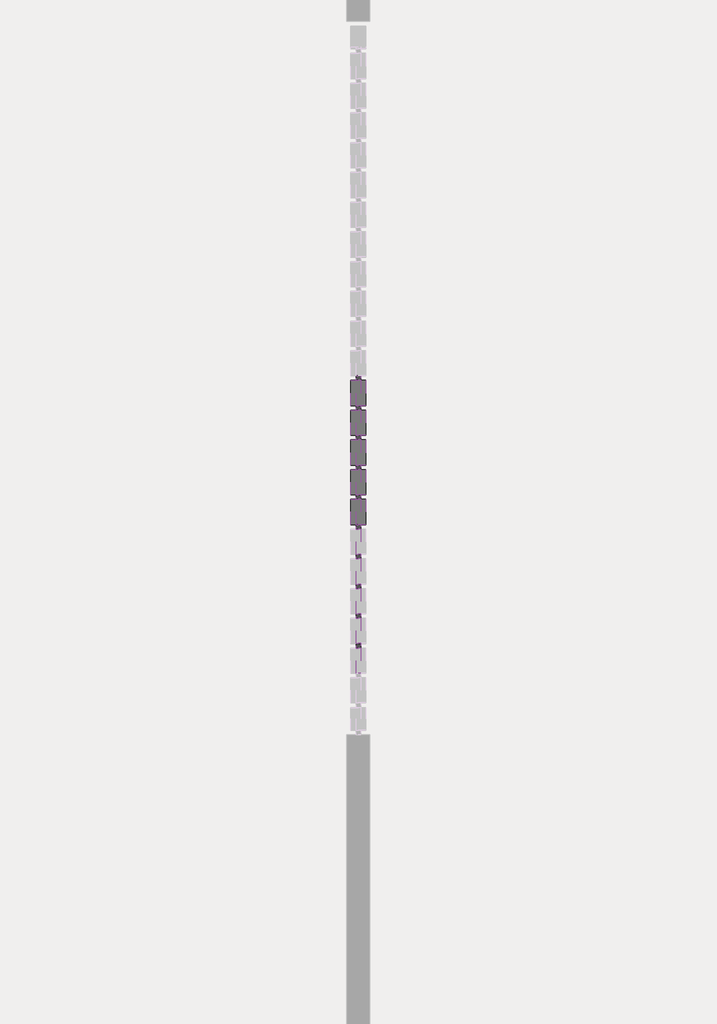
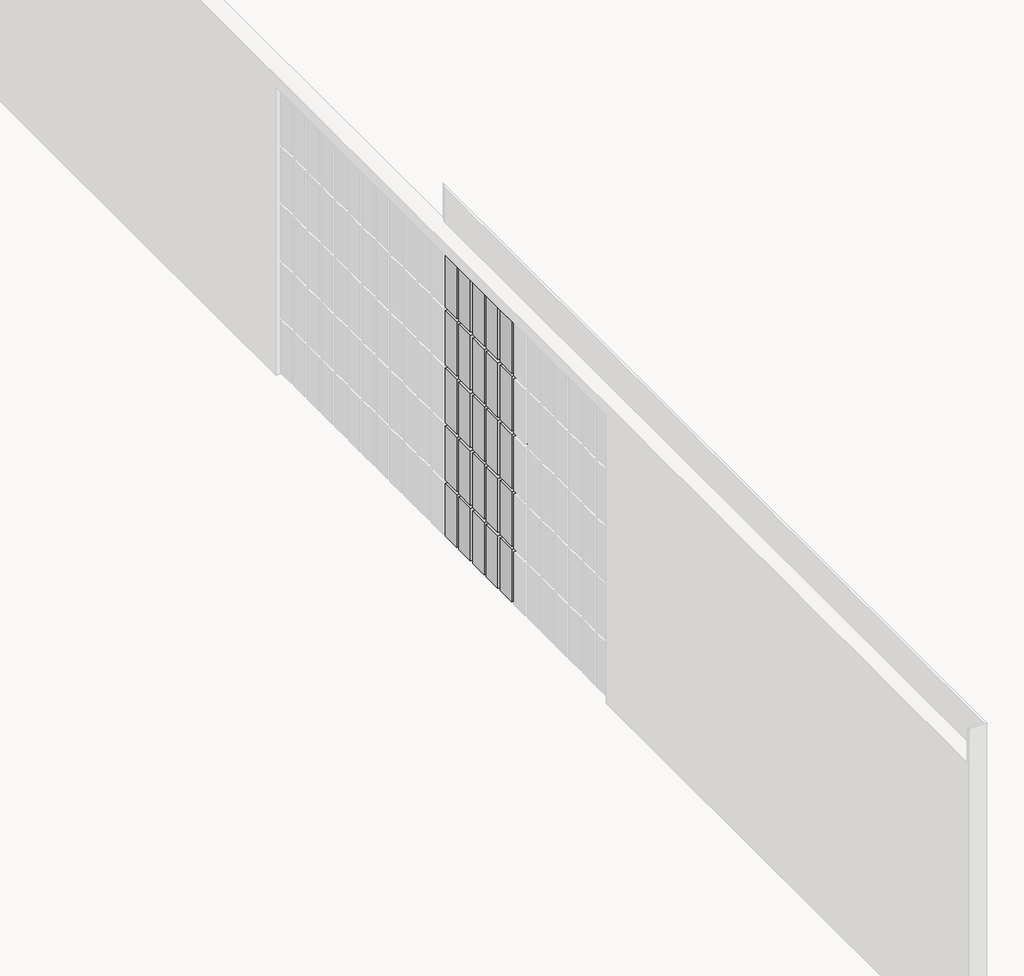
# One storey, part 4 of 9: 105 members, 25 plates.
"""IFC4 building model written with IfcOpenShell, lengths in millimetres."""

from ifc_helpers import new_model, si_unit, origin, place, context, project, spatial, transform, mapped, element, save
from components import montante_retangular_30mm_quadrado_d4df406a, montante_retangular_30mm_quadrado_921f6540, montante_retangular_30mm_quadrado_d9064eb3, painel_do_sistema_vazio_vazio_aac5a565, painel_do_sistema_vazio_vazio_54d91eb3

model = new_model("IFC4")

# Units and contexts
model_context = context("Model", 3, world=origin())
ifc_project = project(units=[si_unit("LENGTHUNIT", "METRE", prefix="MILLI")], contexts=[model_context])

# Site, building, storey
site = spatial("IfcSite", under=ifc_project)
building = spatial("IfcBuilding", under=site)
storey = spatial("IfcBuildingStorey", under=building, Name="Garagem 1", Elevation=47850.0)

# Members
placement = place(None, origin())
montante_retangular_30mm_quadrado_shape = montante_retangular_30mm_quadrado_d4df406a(model_context)
element("IfcMember", 1, ObjectType="Montante retangular : 30mm Quadrado", at=placement, inside=storey, context=model_context, shape_type="MappedRepresentation", body=[
    mapped(montante_retangular_30mm_quadrado_shape, transform((-44730.8696428, 10109.8710619, 50350.0), x_axis=(0.0, 0.0, 1.0), y_axis=(1.0, 0.0, 0.0), z_axis=(0.0, 1.0, 0.0))),
])
element("IfcMember", 2, ObjectType="Montante retangular : 30mm Quadrado", at=placement, inside=storey, context=model_context, shape_type="MappedRepresentation", body=[
    mapped(montante_retangular_30mm_quadrado_shape, transform((-44730.8696428, 10305.3487477, 50350.0), x_axis=(0.0, 0.0, 1.0), y_axis=(1.0, 0.0, 0.0), z_axis=(0.0, 1.0, 0.0))),
])
element("IfcMember", 3, ObjectType="Montante retangular : 30mm Quadrado", at=placement, inside=storey, context=model_context, shape_type="MappedRepresentation", body=[
    mapped(montante_retangular_30mm_quadrado_shape, transform((-44730.8696428, 10500.8264336, 50350.0), x_axis=(0.0, 0.0, 1.0), y_axis=(1.0, 0.0, 0.0), z_axis=(0.0, 1.0, 0.0))),
])
element("IfcMember", 4, ObjectType="Montante retangular : 30mm Quadrado", at=placement, inside=storey, context=model_context, shape_type="MappedRepresentation", body=[
    mapped(montante_retangular_30mm_quadrado_shape, transform((-44730.8696428, 10696.3041194, 50350.0), x_axis=(0.0, 0.0, 1.0), y_axis=(1.0, 0.0, 0.0), z_axis=(0.0, 1.0, 0.0))),
])
element("IfcMember", 5, ObjectType="Montante retangular : 30mm Quadrado", at=placement, inside=storey, context=model_context, shape_type="MappedRepresentation", body=[
    mapped(montante_retangular_30mm_quadrado_shape, transform((-44730.8696428, 10891.7818052, 50350.0), x_axis=(0.0, 0.0, 1.0), y_axis=(1.0, 0.0, 0.0), z_axis=(0.0, 1.0, 0.0))),
])
element("IfcMember", 6, ObjectType="Montante retangular : 30mm Quadrado", at=placement, inside=storey, context=model_context, shape_type="MappedRepresentation", body=[
    mapped(montante_retangular_30mm_quadrado_shape, transform((-44730.8696428, 9162.4826328, 47850.0), x_axis=(0.0, 0.0, -1.0), y_axis=(1.0, 0.0, 0.0), z_axis=(0.0, -1.0, 0.0))),
])
element("IfcMember", 7, ObjectType="Montante retangular : 30mm Quadrado", at=placement, inside=storey, context=model_context, shape_type="MappedRepresentation", body=[
    mapped(montante_retangular_30mm_quadrado_shape, transform((-44730.8696428, 9357.9603187, 47850.0), x_axis=(0.0, 0.0, -1.0), y_axis=(1.0, 0.0, 0.0), z_axis=(0.0, -1.0, 0.0))),
])
element("IfcMember", 8, ObjectType="Montante retangular : 30mm Quadrado", at=placement, inside=storey, context=model_context, shape_type="MappedRepresentation", body=[
    mapped(montante_retangular_30mm_quadrado_shape, transform((-44730.8696428, 9553.4380045, 47850.0), x_axis=(0.0, 0.0, -1.0), y_axis=(1.0, 0.0, 0.0), z_axis=(0.0, -1.0, 0.0))),
])
element("IfcMember", 9, ObjectType="Montante retangular : 30mm Quadrado", at=placement, inside=storey, context=model_context, shape_type="MappedRepresentation", body=[
    mapped(montante_retangular_30mm_quadrado_shape, transform((-44730.8696428, 9748.9156903, 47850.0), x_axis=(0.0, 0.0, -1.0), y_axis=(1.0, 0.0, 0.0), z_axis=(0.0, -1.0, 0.0))),
])
element("IfcMember", 10, ObjectType="Montante retangular : 30mm Quadrado", at=placement, inside=storey, context=model_context, shape_type="MappedRepresentation", body=[
    mapped(montante_retangular_30mm_quadrado_shape, transform((-44730.8696428, 9944.3933761, 47850.0), x_axis=(0.0, 0.0, -1.0), y_axis=(1.0, 0.0, 0.0), z_axis=(0.0, -1.0, 0.0))),
])
element("IfcMember", 11, ObjectType="Montante retangular : 30mm Quadrado", at=placement, inside=storey, context=model_context, shape_type="MappedRepresentation", body=[
    mapped(montante_retangular_30mm_quadrado_shape, transform((-44730.8696428, 10139.8710619, 47850.0), x_axis=(0.0, 0.0, -1.0), y_axis=(1.0, 0.0, 0.0), z_axis=(0.0, -1.0, 0.0))),
])
element("IfcMember", 12, ObjectType="Montante retangular : 30mm Quadrado", at=placement, inside=storey, context=model_context, shape_type="MappedRepresentation", body=[
    mapped(montante_retangular_30mm_quadrado_shape, transform((-44730.8696428, 10335.3487477, 47850.0), x_axis=(0.0, 0.0, -1.0), y_axis=(1.0, 0.0, 0.0), z_axis=(0.0, -1.0, 0.0))),
])
element("IfcMember", 13, ObjectType="Montante retangular : 30mm Quadrado", at=placement, inside=storey, context=model_context, shape_type="MappedRepresentation", body=[
    mapped(montante_retangular_30mm_quadrado_shape, transform((-44730.8696428, 10530.8264336, 47850.0), x_axis=(0.0, 0.0, -1.0), y_axis=(1.0, 0.0, 0.0), z_axis=(0.0, -1.0, 0.0))),
])
element("IfcMember", 14, ObjectType="Montante retangular : 30mm Quadrado", at=placement, inside=storey, context=model_context, shape_type="MappedRepresentation", body=[
    mapped(montante_retangular_30mm_quadrado_shape, transform((-44730.8696428, 10726.3041194, 47850.0), x_axis=(0.0, 0.0, -1.0), y_axis=(1.0, 0.0, 0.0), z_axis=(0.0, -1.0, 0.0))),
])
element("IfcMember", 15, ObjectType="Montante retangular : 30mm Quadrado", at=placement, inside=storey, context=model_context, shape_type="MappedRepresentation", body=[
    mapped(montante_retangular_30mm_quadrado_shape, transform((-44730.8696428, 10921.7818052, 47850.0), x_axis=(0.0, 0.0, -1.0), y_axis=(1.0, 0.0, 0.0), z_axis=(0.0, -1.0, 0.0))),
])
montante_retangular_30mm_quadrado_2_shape = montante_retangular_30mm_quadrado_921f6540(model_context)
element("IfcMember", 16, ObjectType="Montante retangular : 30mm Quadrado", at=placement, inside=storey, context=model_context, shape_type="MappedRepresentation", body=[
    mapped(montante_retangular_30mm_quadrado_2_shape, transform((-44730.8696428, 9132.4826328, 48350.0), x_axis=(0.0, 0.0, 1.0), y_axis=(1.0, 0.0, 0.0), z_axis=(0.0, 1.0, 0.0))),
])
element("IfcMember", 17, ObjectType="Montante retangular : 30mm Quadrado", at=placement, inside=storey, context=model_context, shape_type="MappedRepresentation", body=[
    mapped(montante_retangular_30mm_quadrado_2_shape, transform((-44730.8696428, 9327.9603187, 48350.0), x_axis=(0.0, 0.0, 1.0), y_axis=(1.0, 0.0, 0.0), z_axis=(0.0, 1.0, 0.0))),
])
element("IfcMember", 18, ObjectType="Montante retangular : 30mm Quadrado", at=placement, inside=storey, context=model_context, shape_type="MappedRepresentation", body=[
    mapped(montante_retangular_30mm_quadrado_2_shape, transform((-44730.8696428, 9523.4380045, 48350.0), x_axis=(0.0, 0.0, 1.0), y_axis=(1.0, 0.0, 0.0), z_axis=(0.0, 1.0, 0.0))),
])
element("IfcMember", 19, ObjectType="Montante retangular : 30mm Quadrado", at=placement, inside=storey, context=model_context, shape_type="MappedRepresentation", body=[
    mapped(montante_retangular_30mm_quadrado_2_shape, transform((-44730.8696428, 9718.9156903, 48350.0), x_axis=(0.0, 0.0, 1.0), y_axis=(1.0, 0.0, 0.0), z_axis=(0.0, 1.0, 0.0))),
])
element("IfcMember", 20, ObjectType="Montante retangular : 30mm Quadrado", at=placement, inside=storey, context=model_context, shape_type="MappedRepresentation", body=[
    mapped(montante_retangular_30mm_quadrado_2_shape, transform((-44730.8696428, 9914.3933761, 48350.0), x_axis=(0.0, 0.0, 1.0), y_axis=(1.0, 0.0, 0.0), z_axis=(0.0, 1.0, 0.0))),
])
element("IfcMember", 21, ObjectType="Montante retangular : 30mm Quadrado", at=placement, inside=storey, context=model_context, shape_type="MappedRepresentation", body=[
    mapped(montante_retangular_30mm_quadrado_2_shape, transform((-44730.8696428, 10109.8710619, 48350.0), x_axis=(0.0, 0.0, 1.0), y_axis=(1.0, 0.0, 0.0), z_axis=(0.0, 1.0, 0.0))),
])
element("IfcMember", 22, ObjectType="Montante retangular : 30mm Quadrado", at=placement, inside=storey, context=model_context, shape_type="MappedRepresentation", body=[
    mapped(montante_retangular_30mm_quadrado_2_shape, transform((-44730.8696428, 10305.3487477, 48350.0), x_axis=(0.0, 0.0, 1.0), y_axis=(1.0, 0.0, 0.0), z_axis=(0.0, 1.0, 0.0))),
])
element("IfcMember", 23, ObjectType="Montante retangular : 30mm Quadrado", at=placement, inside=storey, context=model_context, shape_type="MappedRepresentation", body=[
    mapped(montante_retangular_30mm_quadrado_2_shape, transform((-44730.8696428, 10500.8264336, 48350.0), x_axis=(0.0, 0.0, 1.0), y_axis=(1.0, 0.0, 0.0), z_axis=(0.0, 1.0, 0.0))),
])
element("IfcMember", 24, ObjectType="Montante retangular : 30mm Quadrado", at=placement, inside=storey, context=model_context, shape_type="MappedRepresentation", body=[
    mapped(montante_retangular_30mm_quadrado_2_shape, transform((-44730.8696428, 10696.3041194, 48350.0), x_axis=(0.0, 0.0, 1.0), y_axis=(1.0, 0.0, 0.0), z_axis=(0.0, 1.0, 0.0))),
])
element("IfcMember", 25, ObjectType="Montante retangular : 30mm Quadrado", at=placement, inside=storey, context=model_context, shape_type="MappedRepresentation", body=[
    mapped(montante_retangular_30mm_quadrado_2_shape, transform((-44730.8696428, 10891.7818052, 48350.0), x_axis=(0.0, 0.0, 1.0), y_axis=(1.0, 0.0, 0.0), z_axis=(0.0, 1.0, 0.0))),
])
element("IfcMember", 26, ObjectType="Montante retangular : 30mm Quadrado", at=placement, inside=storey, context=model_context, shape_type="MappedRepresentation", body=[
    mapped(montante_retangular_30mm_quadrado_2_shape, transform((-44730.8696428, 9132.4826328, 48850.0), x_axis=(0.0, 0.0, 1.0), y_axis=(1.0, 0.0, 0.0), z_axis=(0.0, 1.0, 0.0))),
])
element("IfcMember", 27, ObjectType="Montante retangular : 30mm Quadrado", at=placement, inside=storey, context=model_context, shape_type="MappedRepresentation", body=[
    mapped(montante_retangular_30mm_quadrado_2_shape, transform((-44730.8696428, 9327.9603187, 48850.0), x_axis=(0.0, 0.0, 1.0), y_axis=(1.0, 0.0, 0.0), z_axis=(0.0, 1.0, 0.0))),
])
element("IfcMember", 28, ObjectType="Montante retangular : 30mm Quadrado", at=placement, inside=storey, context=model_context, shape_type="MappedRepresentation", body=[
    mapped(montante_retangular_30mm_quadrado_2_shape, transform((-44730.8696428, 9523.4380045, 48850.0), x_axis=(0.0, 0.0, 1.0), y_axis=(1.0, 0.0, 0.0), z_axis=(0.0, 1.0, 0.0))),
])
element("IfcMember", 29, ObjectType="Montante retangular : 30mm Quadrado", at=placement, inside=storey, context=model_context, shape_type="MappedRepresentation", body=[
    mapped(montante_retangular_30mm_quadrado_2_shape, transform((-44730.8696428, 9718.9156903, 48850.0), x_axis=(0.0, 0.0, 1.0), y_axis=(1.0, 0.0, 0.0), z_axis=(0.0, 1.0, 0.0))),
])
element("IfcMember", 30, ObjectType="Montante retangular : 30mm Quadrado", at=placement, inside=storey, context=model_context, shape_type="MappedRepresentation", body=[
    mapped(montante_retangular_30mm_quadrado_2_shape, transform((-44730.8696428, 9914.3933761, 48850.0), x_axis=(0.0, 0.0, 1.0), y_axis=(1.0, 0.0, 0.0), z_axis=(0.0, 1.0, 0.0))),
])
element("IfcMember", 31, ObjectType="Montante retangular : 30mm Quadrado", at=placement, inside=storey, context=model_context, shape_type="MappedRepresentation", body=[
    mapped(montante_retangular_30mm_quadrado_2_shape, transform((-44730.8696428, 10109.8710619, 48850.0), x_axis=(0.0, 0.0, 1.0), y_axis=(1.0, 0.0, 0.0), z_axis=(0.0, 1.0, 0.0))),
])
element("IfcMember", 32, ObjectType="Montante retangular : 30mm Quadrado", at=placement, inside=storey, context=model_context, shape_type="MappedRepresentation", body=[
    mapped(montante_retangular_30mm_quadrado_2_shape, transform((-44730.8696428, 10305.3487477, 48850.0), x_axis=(0.0, 0.0, 1.0), y_axis=(1.0, 0.0, 0.0), z_axis=(0.0, 1.0, 0.0))),
])
element("IfcMember", 33, ObjectType="Montante retangular : 30mm Quadrado", at=placement, inside=storey, context=model_context, shape_type="MappedRepresentation", body=[
    mapped(montante_retangular_30mm_quadrado_2_shape, transform((-44730.8696428, 10500.8264336, 48850.0), x_axis=(0.0, 0.0, 1.0), y_axis=(1.0, 0.0, 0.0), z_axis=(0.0, 1.0, 0.0))),
])
element("IfcMember", 34, ObjectType="Montante retangular : 30mm Quadrado", at=placement, inside=storey, context=model_context, shape_type="MappedRepresentation", body=[
    mapped(montante_retangular_30mm_quadrado_2_shape, transform((-44730.8696428, 10696.3041194, 48850.0), x_axis=(0.0, 0.0, 1.0), y_axis=(1.0, 0.0, 0.0), z_axis=(0.0, 1.0, 0.0))),
])
element("IfcMember", 35, ObjectType="Montante retangular : 30mm Quadrado", at=placement, inside=storey, context=model_context, shape_type="MappedRepresentation", body=[
    mapped(montante_retangular_30mm_quadrado_2_shape, transform((-44730.8696428, 10891.7818052, 48850.0), x_axis=(0.0, 0.0, 1.0), y_axis=(1.0, 0.0, 0.0), z_axis=(0.0, 1.0, 0.0))),
])
element("IfcMember", 36, ObjectType="Montante retangular : 30mm Quadrado", at=placement, inside=storey, context=model_context, shape_type="MappedRepresentation", body=[
    mapped(montante_retangular_30mm_quadrado_2_shape, transform((-44730.8696428, 9132.4826328, 49350.0), x_axis=(0.0, 0.0, 1.0), y_axis=(1.0, 0.0, 0.0), z_axis=(0.0, 1.0, 0.0))),
])
element("IfcMember", 37, ObjectType="Montante retangular : 30mm Quadrado", at=placement, inside=storey, context=model_context, shape_type="MappedRepresentation", body=[
    mapped(montante_retangular_30mm_quadrado_2_shape, transform((-44730.8696428, 9327.9603187, 49350.0), x_axis=(0.0, 0.0, 1.0), y_axis=(1.0, 0.0, 0.0), z_axis=(0.0, 1.0, 0.0))),
])
element("IfcMember", 38, ObjectType="Montante retangular : 30mm Quadrado", at=placement, inside=storey, context=model_context, shape_type="MappedRepresentation", body=[
    mapped(montante_retangular_30mm_quadrado_2_shape, transform((-44730.8696428, 9523.4380045, 49350.0), x_axis=(0.0, 0.0, 1.0), y_axis=(1.0, 0.0, 0.0), z_axis=(0.0, 1.0, 0.0))),
])
element("IfcMember", 39, ObjectType="Montante retangular : 30mm Quadrado", at=placement, inside=storey, context=model_context, shape_type="MappedRepresentation", body=[
    mapped(montante_retangular_30mm_quadrado_2_shape, transform((-44730.8696428, 9718.9156903, 49350.0), x_axis=(0.0, 0.0, 1.0), y_axis=(1.0, 0.0, 0.0), z_axis=(0.0, 1.0, 0.0))),
])
element("IfcMember", 40, ObjectType="Montante retangular : 30mm Quadrado", at=placement, inside=storey, context=model_context, shape_type="MappedRepresentation", body=[
    mapped(montante_retangular_30mm_quadrado_2_shape, transform((-44730.8696428, 9914.3933761, 49350.0), x_axis=(0.0, 0.0, 1.0), y_axis=(1.0, 0.0, 0.0), z_axis=(0.0, 1.0, 0.0))),
])
element("IfcMember", 41, ObjectType="Montante retangular : 30mm Quadrado", at=placement, inside=storey, context=model_context, shape_type="MappedRepresentation", body=[
    mapped(montante_retangular_30mm_quadrado_2_shape, transform((-44730.8696428, 10109.8710619, 49350.0), x_axis=(0.0, 0.0, 1.0), y_axis=(1.0, 0.0, 0.0), z_axis=(0.0, 1.0, 0.0))),
])
element("IfcMember", 42, ObjectType="Montante retangular : 30mm Quadrado", at=placement, inside=storey, context=model_context, shape_type="MappedRepresentation", body=[
    mapped(montante_retangular_30mm_quadrado_2_shape, transform((-44730.8696428, 10305.3487477, 49350.0), x_axis=(0.0, 0.0, 1.0), y_axis=(1.0, 0.0, 0.0), z_axis=(0.0, 1.0, 0.0))),
])
element("IfcMember", 43, ObjectType="Montante retangular : 30mm Quadrado", at=placement, inside=storey, context=model_context, shape_type="MappedRepresentation", body=[
    mapped(montante_retangular_30mm_quadrado_2_shape, transform((-44730.8696428, 10500.8264336, 49350.0), x_axis=(0.0, 0.0, 1.0), y_axis=(1.0, 0.0, 0.0), z_axis=(0.0, 1.0, 0.0))),
])
element("IfcMember", 44, ObjectType="Montante retangular : 30mm Quadrado", at=placement, inside=storey, context=model_context, shape_type="MappedRepresentation", body=[
    mapped(montante_retangular_30mm_quadrado_2_shape, transform((-44730.8696428, 10696.3041194, 49350.0), x_axis=(0.0, 0.0, 1.0), y_axis=(1.0, 0.0, 0.0), z_axis=(0.0, 1.0, 0.0))),
])
element("IfcMember", 45, ObjectType="Montante retangular : 30mm Quadrado", at=placement, inside=storey, context=model_context, shape_type="MappedRepresentation", body=[
    mapped(montante_retangular_30mm_quadrado_2_shape, transform((-44730.8696428, 10891.7818052, 49350.0), x_axis=(0.0, 0.0, 1.0), y_axis=(1.0, 0.0, 0.0), z_axis=(0.0, 1.0, 0.0))),
])
element("IfcMember", 46, ObjectType="Montante retangular : 30mm Quadrado", at=placement, inside=storey, context=model_context, shape_type="MappedRepresentation", body=[
    mapped(montante_retangular_30mm_quadrado_2_shape, transform((-44730.8696428, 9132.4826328, 49850.0), x_axis=(0.0, 0.0, 1.0), y_axis=(1.0, 0.0, 0.0), z_axis=(0.0, 1.0, 0.0))),
])
element("IfcMember", 47, ObjectType="Montante retangular : 30mm Quadrado", at=placement, inside=storey, context=model_context, shape_type="MappedRepresentation", body=[
    mapped(montante_retangular_30mm_quadrado_2_shape, transform((-44730.8696428, 9327.9603187, 49850.0), x_axis=(0.0, 0.0, 1.0), y_axis=(1.0, 0.0, 0.0), z_axis=(0.0, 1.0, 0.0))),
])
element("IfcMember", 48, ObjectType="Montante retangular : 30mm Quadrado", at=placement, inside=storey, context=model_context, shape_type="MappedRepresentation", body=[
    mapped(montante_retangular_30mm_quadrado_2_shape, transform((-44730.8696428, 9523.4380045, 49850.0), x_axis=(0.0, 0.0, 1.0), y_axis=(1.0, 0.0, 0.0), z_axis=(0.0, 1.0, 0.0))),
])
element("IfcMember", 49, ObjectType="Montante retangular : 30mm Quadrado", at=placement, inside=storey, context=model_context, shape_type="MappedRepresentation", body=[
    mapped(montante_retangular_30mm_quadrado_2_shape, transform((-44730.8696428, 9718.9156903, 49850.0), x_axis=(0.0, 0.0, 1.0), y_axis=(1.0, 0.0, 0.0), z_axis=(0.0, 1.0, 0.0))),
])
element("IfcMember", 50, ObjectType="Montante retangular : 30mm Quadrado", at=placement, inside=storey, context=model_context, shape_type="MappedRepresentation", body=[
    mapped(montante_retangular_30mm_quadrado_2_shape, transform((-44730.8696428, 9914.3933761, 49850.0), x_axis=(0.0, 0.0, 1.0), y_axis=(1.0, 0.0, 0.0), z_axis=(0.0, 1.0, 0.0))),
])
element("IfcMember", 51, ObjectType="Montante retangular : 30mm Quadrado", at=placement, inside=storey, context=model_context, shape_type="MappedRepresentation", body=[
    mapped(montante_retangular_30mm_quadrado_2_shape, transform((-44730.8696428, 10109.8710619, 49850.0), x_axis=(0.0, 0.0, 1.0), y_axis=(1.0, 0.0, 0.0), z_axis=(0.0, 1.0, 0.0))),
])
element("IfcMember", 52, ObjectType="Montante retangular : 30mm Quadrado", at=placement, inside=storey, context=model_context, shape_type="MappedRepresentation", body=[
    mapped(montante_retangular_30mm_quadrado_2_shape, transform((-44730.8696428, 10305.3487477, 49850.0), x_axis=(0.0, 0.0, 1.0), y_axis=(1.0, 0.0, 0.0), z_axis=(0.0, 1.0, 0.0))),
])
element("IfcMember", 53, ObjectType="Montante retangular : 30mm Quadrado", at=placement, inside=storey, context=model_context, shape_type="MappedRepresentation", body=[
    mapped(montante_retangular_30mm_quadrado_2_shape, transform((-44730.8696428, 10500.8264336, 49850.0), x_axis=(0.0, 0.0, 1.0), y_axis=(1.0, 0.0, 0.0), z_axis=(0.0, 1.0, 0.0))),
])
element("IfcMember", 54, ObjectType="Montante retangular : 30mm Quadrado", at=placement, inside=storey, context=model_context, shape_type="MappedRepresentation", body=[
    mapped(montante_retangular_30mm_quadrado_2_shape, transform((-44730.8696428, 10696.3041194, 49850.0), x_axis=(0.0, 0.0, 1.0), y_axis=(1.0, 0.0, 0.0), z_axis=(0.0, 1.0, 0.0))),
])
element("IfcMember", 55, ObjectType="Montante retangular : 30mm Quadrado", at=placement, inside=storey, context=model_context, shape_type="MappedRepresentation", body=[
    mapped(montante_retangular_30mm_quadrado_2_shape, transform((-44730.8696428, 10891.7818052, 49850.0), x_axis=(0.0, 0.0, 1.0), y_axis=(1.0, 0.0, 0.0), z_axis=(0.0, 1.0, 0.0))),
])
montante_retangular_30mm_quadrado_3_shape = montante_retangular_30mm_quadrado_d9064eb3(model_context)
element("IfcMember", 56, ObjectType="Montante retangular : 30mm Quadrado", at=placement, inside=storey, context=model_context, shape_type="MappedRepresentation", body=[
    mapped(montante_retangular_30mm_quadrado_3_shape, transform((-44730.8696428, 9147.4826328, 47850.0), x_axis=(0.0, 1.0, 0.0), y_axis=(1.0, 0.0, 0.0), z_axis=(0.0, 0.0, -1.0))),
])
element("IfcMember", 57, ObjectType="Montante retangular : 30mm Quadrado", at=placement, inside=storey, context=model_context, shape_type="MappedRepresentation", body=[
    mapped(montante_retangular_30mm_quadrado_3_shape, transform((-44730.8696428, 9342.9603187, 47850.0), x_axis=(0.0, 1.0, 0.0), y_axis=(1.0, 0.0, 0.0), z_axis=(0.0, 0.0, -1.0))),
])
element("IfcMember", 58, ObjectType="Montante retangular : 30mm Quadrado", at=placement, inside=storey, context=model_context, shape_type="MappedRepresentation", body=[
    mapped(montante_retangular_30mm_quadrado_3_shape, transform((-44730.8696428, 9538.4380045, 47850.0), x_axis=(0.0, 1.0, 0.0), y_axis=(1.0, 0.0, 0.0), z_axis=(0.0, 0.0, -1.0))),
])
element("IfcMember", 59, ObjectType="Montante retangular : 30mm Quadrado", at=placement, inside=storey, context=model_context, shape_type="MappedRepresentation", body=[
    mapped(montante_retangular_30mm_quadrado_3_shape, transform((-44730.8696428, 9733.9156903, 47850.0), x_axis=(0.0, 1.0, 0.0), y_axis=(1.0, 0.0, 0.0), z_axis=(0.0, 0.0, -1.0))),
])
element("IfcMember", 60, ObjectType="Montante retangular : 30mm Quadrado", at=placement, inside=storey, context=model_context, shape_type="MappedRepresentation", body=[
    mapped(montante_retangular_30mm_quadrado_3_shape, transform((-44730.8696428, 9929.3933761, 47850.0), x_axis=(0.0, 1.0, 0.0), y_axis=(1.0, 0.0, 0.0), z_axis=(0.0, 0.0, -1.0))),
])
element("IfcMember", 61, ObjectType="Montante retangular : 30mm Quadrado", at=placement, inside=storey, context=model_context, shape_type="MappedRepresentation", body=[
    mapped(montante_retangular_30mm_quadrado_3_shape, transform((-44730.8696428, 10124.8710619, 47850.0), x_axis=(0.0, 1.0, 0.0), y_axis=(1.0, 0.0, 0.0), z_axis=(0.0, 0.0, -1.0))),
])
element("IfcMember", 62, ObjectType="Montante retangular : 30mm Quadrado", at=placement, inside=storey, context=model_context, shape_type="MappedRepresentation", body=[
    mapped(montante_retangular_30mm_quadrado_3_shape, transform((-44730.8696428, 10320.3487477, 47850.0), x_axis=(0.0, 1.0, 0.0), y_axis=(1.0, 0.0, 0.0), z_axis=(0.0, 0.0, -1.0))),
])
element("IfcMember", 63, ObjectType="Montante retangular : 30mm Quadrado", at=placement, inside=storey, context=model_context, shape_type="MappedRepresentation", body=[
    mapped(montante_retangular_30mm_quadrado_3_shape, transform((-44730.8696428, 10515.8264336, 47850.0), x_axis=(0.0, 1.0, 0.0), y_axis=(1.0, 0.0, 0.0), z_axis=(0.0, 0.0, -1.0))),
])
element("IfcMember", 64, ObjectType="Montante retangular : 30mm Quadrado", at=placement, inside=storey, context=model_context, shape_type="MappedRepresentation", body=[
    mapped(montante_retangular_30mm_quadrado_3_shape, transform((-44730.8696428, 10711.3041194, 47850.0), x_axis=(0.0, 1.0, 0.0), y_axis=(1.0, 0.0, 0.0), z_axis=(0.0, 0.0, -1.0))),
])
element("IfcMember", 65, ObjectType="Montante retangular : 30mm Quadrado", at=placement, inside=storey, context=model_context, shape_type="MappedRepresentation", body=[
    mapped(montante_retangular_30mm_quadrado_3_shape, transform((-44730.8696428, 10906.7818052, 47850.0), x_axis=(0.0, 1.0, 0.0), y_axis=(1.0, 0.0, 0.0), z_axis=(0.0, 0.0, -1.0))),
])
element("IfcMember", 66, ObjectType="Montante retangular : 30mm Quadrado", at=placement, inside=storey, context=model_context, shape_type="MappedRepresentation", body=[
    mapped(montante_retangular_30mm_quadrado_3_shape, transform((-44730.8696428, 9147.4826328, 48350.0), x_axis=(0.0, 1.0, 0.0), y_axis=(1.0, 0.0, 0.0), z_axis=(0.0, 0.0, -1.0))),
])
element("IfcMember", 67, ObjectType="Montante retangular : 30mm Quadrado", at=placement, inside=storey, context=model_context, shape_type="MappedRepresentation", body=[
    mapped(montante_retangular_30mm_quadrado_3_shape, transform((-44730.8696428, 9342.9603187, 48350.0), x_axis=(0.0, 1.0, 0.0), y_axis=(1.0, 0.0, 0.0), z_axis=(0.0, 0.0, -1.0))),
])
element("IfcMember", 68, ObjectType="Montante retangular : 30mm Quadrado", at=placement, inside=storey, context=model_context, shape_type="MappedRepresentation", body=[
    mapped(montante_retangular_30mm_quadrado_3_shape, transform((-44730.8696428, 9538.4380045, 48350.0), x_axis=(0.0, 1.0, 0.0), y_axis=(1.0, 0.0, 0.0), z_axis=(0.0, 0.0, -1.0))),
])
element("IfcMember", 69, ObjectType="Montante retangular : 30mm Quadrado", at=placement, inside=storey, context=model_context, shape_type="MappedRepresentation", body=[
    mapped(montante_retangular_30mm_quadrado_3_shape, transform((-44730.8696428, 9733.9156903, 48350.0), x_axis=(0.0, 1.0, 0.0), y_axis=(1.0, 0.0, 0.0), z_axis=(0.0, 0.0, -1.0))),
])
element("IfcMember", 70, ObjectType="Montante retangular : 30mm Quadrado", at=placement, inside=storey, context=model_context, shape_type="MappedRepresentation", body=[
    mapped(montante_retangular_30mm_quadrado_3_shape, transform((-44730.8696428, 9929.3933761, 48350.0), x_axis=(0.0, 1.0, 0.0), y_axis=(1.0, 0.0, 0.0), z_axis=(0.0, 0.0, -1.0))),
])
element("IfcMember", 71, ObjectType="Montante retangular : 30mm Quadrado", at=placement, inside=storey, context=model_context, shape_type="MappedRepresentation", body=[
    mapped(montante_retangular_30mm_quadrado_3_shape, transform((-44730.8696428, 10124.8710619, 48350.0), x_axis=(0.0, 1.0, 0.0), y_axis=(1.0, 0.0, 0.0), z_axis=(0.0, 0.0, -1.0))),
])
element("IfcMember", 72, ObjectType="Montante retangular : 30mm Quadrado", at=placement, inside=storey, context=model_context, shape_type="MappedRepresentation", body=[
    mapped(montante_retangular_30mm_quadrado_3_shape, transform((-44730.8696428, 10320.3487477, 48350.0), x_axis=(0.0, 1.0, 0.0), y_axis=(1.0, 0.0, 0.0), z_axis=(0.0, 0.0, -1.0))),
])
element("IfcMember", 73, ObjectType="Montante retangular : 30mm Quadrado", at=placement, inside=storey, context=model_context, shape_type="MappedRepresentation", body=[
    mapped(montante_retangular_30mm_quadrado_3_shape, transform((-44730.8696428, 10515.8264336, 48350.0), x_axis=(0.0, 1.0, 0.0), y_axis=(1.0, 0.0, 0.0), z_axis=(0.0, 0.0, -1.0))),
])
element("IfcMember", 74, ObjectType="Montante retangular : 30mm Quadrado", at=placement, inside=storey, context=model_context, shape_type="MappedRepresentation", body=[
    mapped(montante_retangular_30mm_quadrado_3_shape, transform((-44730.8696428, 10711.3041194, 48350.0), x_axis=(0.0, 1.0, 0.0), y_axis=(1.0, 0.0, 0.0), z_axis=(0.0, 0.0, -1.0))),
])
element("IfcMember", 75, ObjectType="Montante retangular : 30mm Quadrado", at=placement, inside=storey, context=model_context, shape_type="MappedRepresentation", body=[
    mapped(montante_retangular_30mm_quadrado_3_shape, transform((-44730.8696428, 10906.7818052, 48350.0), x_axis=(0.0, 1.0, 0.0), y_axis=(1.0, 0.0, 0.0), z_axis=(0.0, 0.0, -1.0))),
])
element("IfcMember", 76, ObjectType="Montante retangular : 30mm Quadrado", at=placement, inside=storey, context=model_context, shape_type="MappedRepresentation", body=[
    mapped(montante_retangular_30mm_quadrado_3_shape, transform((-44730.8696428, 9147.4826328, 48850.0), x_axis=(0.0, 1.0, 0.0), y_axis=(1.0, 0.0, 0.0), z_axis=(0.0, 0.0, -1.0))),
])
element("IfcMember", 77, ObjectType="Montante retangular : 30mm Quadrado", at=placement, inside=storey, context=model_context, shape_type="MappedRepresentation", body=[
    mapped(montante_retangular_30mm_quadrado_3_shape, transform((-44730.8696428, 9342.9603187, 48850.0), x_axis=(0.0, 1.0, 0.0), y_axis=(1.0, 0.0, 0.0), z_axis=(0.0, 0.0, -1.0))),
])
element("IfcMember", 78, ObjectType="Montante retangular : 30mm Quadrado", at=placement, inside=storey, context=model_context, shape_type="MappedRepresentation", body=[
    mapped(montante_retangular_30mm_quadrado_3_shape, transform((-44730.8696428, 9538.4380045, 48850.0), x_axis=(0.0, 1.0, 0.0), y_axis=(1.0, 0.0, 0.0), z_axis=(0.0, 0.0, -1.0))),
])
element("IfcMember", 79, ObjectType="Montante retangular : 30mm Quadrado", at=placement, inside=storey, context=model_context, shape_type="MappedRepresentation", body=[
    mapped(montante_retangular_30mm_quadrado_3_shape, transform((-44730.8696428, 9733.9156903, 48850.0), x_axis=(0.0, 1.0, 0.0), y_axis=(1.0, 0.0, 0.0), z_axis=(0.0, 0.0, -1.0))),
])
element("IfcMember", 80, ObjectType="Montante retangular : 30mm Quadrado", at=placement, inside=storey, context=model_context, shape_type="MappedRepresentation", body=[
    mapped(montante_retangular_30mm_quadrado_3_shape, transform((-44730.8696428, 9929.3933761, 48850.0), x_axis=(0.0, 1.0, 0.0), y_axis=(1.0, 0.0, 0.0), z_axis=(0.0, 0.0, -1.0))),
])
element("IfcMember", 81, ObjectType="Montante retangular : 30mm Quadrado", at=placement, inside=storey, context=model_context, shape_type="MappedRepresentation", body=[
    mapped(montante_retangular_30mm_quadrado_3_shape, transform((-44730.8696428, 10124.8710619, 48850.0), x_axis=(0.0, 1.0, 0.0), y_axis=(1.0, 0.0, 0.0), z_axis=(0.0, 0.0, -1.0))),
])
element("IfcMember", 82, ObjectType="Montante retangular : 30mm Quadrado", at=placement, inside=storey, context=model_context, shape_type="MappedRepresentation", body=[
    mapped(montante_retangular_30mm_quadrado_3_shape, transform((-44730.8696428, 10320.3487477, 48850.0), x_axis=(0.0, 1.0, 0.0), y_axis=(1.0, 0.0, 0.0), z_axis=(0.0, 0.0, -1.0))),
])
element("IfcMember", 83, ObjectType="Montante retangular : 30mm Quadrado", at=placement, inside=storey, context=model_context, shape_type="MappedRepresentation", body=[
    mapped(montante_retangular_30mm_quadrado_3_shape, transform((-44730.8696428, 10515.8264336, 48850.0), x_axis=(0.0, 1.0, 0.0), y_axis=(1.0, 0.0, 0.0), z_axis=(0.0, 0.0, -1.0))),
])
element("IfcMember", 84, ObjectType="Montante retangular : 30mm Quadrado", at=placement, inside=storey, context=model_context, shape_type="MappedRepresentation", body=[
    mapped(montante_retangular_30mm_quadrado_3_shape, transform((-44730.8696428, 10711.3041194, 48850.0), x_axis=(0.0, 1.0, 0.0), y_axis=(1.0, 0.0, 0.0), z_axis=(0.0, 0.0, -1.0))),
])
element("IfcMember", 85, ObjectType="Montante retangular : 30mm Quadrado", at=placement, inside=storey, context=model_context, shape_type="MappedRepresentation", body=[
    mapped(montante_retangular_30mm_quadrado_3_shape, transform((-44730.8696428, 10906.7818052, 48850.0), x_axis=(0.0, 1.0, 0.0), y_axis=(1.0, 0.0, 0.0), z_axis=(0.0, 0.0, -1.0))),
])
element("IfcMember", 86, ObjectType="Montante retangular : 30mm Quadrado", at=placement, inside=storey, context=model_context, shape_type="MappedRepresentation", body=[
    mapped(montante_retangular_30mm_quadrado_3_shape, transform((-44730.8696428, 9147.4826328, 49350.0), x_axis=(0.0, 1.0, 0.0), y_axis=(1.0, 0.0, 0.0), z_axis=(0.0, 0.0, -1.0))),
])
element("IfcMember", 87, ObjectType="Montante retangular : 30mm Quadrado", at=placement, inside=storey, context=model_context, shape_type="MappedRepresentation", body=[
    mapped(montante_retangular_30mm_quadrado_3_shape, transform((-44730.8696428, 9342.9603187, 49350.0), x_axis=(0.0, 1.0, 0.0), y_axis=(1.0, 0.0, 0.0), z_axis=(0.0, 0.0, -1.0))),
])
element("IfcMember", 88, ObjectType="Montante retangular : 30mm Quadrado", at=placement, inside=storey, context=model_context, shape_type="MappedRepresentation", body=[
    mapped(montante_retangular_30mm_quadrado_3_shape, transform((-44730.8696428, 9538.4380045, 49350.0), x_axis=(0.0, 1.0, 0.0), y_axis=(1.0, 0.0, 0.0), z_axis=(0.0, 0.0, -1.0))),
])
element("IfcMember", 89, ObjectType="Montante retangular : 30mm Quadrado", at=placement, inside=storey, context=model_context, shape_type="MappedRepresentation", body=[
    mapped(montante_retangular_30mm_quadrado_3_shape, transform((-44730.8696428, 9733.9156903, 49350.0), x_axis=(0.0, 1.0, 0.0), y_axis=(1.0, 0.0, 0.0), z_axis=(0.0, 0.0, -1.0))),
])
element("IfcMember", 90, ObjectType="Montante retangular : 30mm Quadrado", at=placement, inside=storey, context=model_context, shape_type="MappedRepresentation", body=[
    mapped(montante_retangular_30mm_quadrado_3_shape, transform((-44730.8696428, 9929.3933761, 49350.0), x_axis=(0.0, 1.0, 0.0), y_axis=(1.0, 0.0, 0.0), z_axis=(0.0, 0.0, -1.0))),
])
element("IfcMember", 91, ObjectType="Montante retangular : 30mm Quadrado", at=placement, inside=storey, context=model_context, shape_type="MappedRepresentation", body=[
    mapped(montante_retangular_30mm_quadrado_3_shape, transform((-44730.8696428, 10124.8710619, 49350.0), x_axis=(0.0, 1.0, 0.0), y_axis=(1.0, 0.0, 0.0), z_axis=(0.0, 0.0, -1.0))),
])
element("IfcMember", 92, ObjectType="Montante retangular : 30mm Quadrado", at=placement, inside=storey, context=model_context, shape_type="MappedRepresentation", body=[
    mapped(montante_retangular_30mm_quadrado_3_shape, transform((-44730.8696428, 10320.3487477, 49350.0), x_axis=(0.0, 1.0, 0.0), y_axis=(1.0, 0.0, 0.0), z_axis=(0.0, 0.0, -1.0))),
])
element("IfcMember", 93, ObjectType="Montante retangular : 30mm Quadrado", at=placement, inside=storey, context=model_context, shape_type="MappedRepresentation", body=[
    mapped(montante_retangular_30mm_quadrado_3_shape, transform((-44730.8696428, 10515.8264336, 49350.0), x_axis=(0.0, 1.0, 0.0), y_axis=(1.0, 0.0, 0.0), z_axis=(0.0, 0.0, -1.0))),
])
element("IfcMember", 94, ObjectType="Montante retangular : 30mm Quadrado", at=placement, inside=storey, context=model_context, shape_type="MappedRepresentation", body=[
    mapped(montante_retangular_30mm_quadrado_3_shape, transform((-44730.8696428, 10711.3041194, 49350.0), x_axis=(0.0, 1.0, 0.0), y_axis=(1.0, 0.0, 0.0), z_axis=(0.0, 0.0, -1.0))),
])
element("IfcMember", 95, ObjectType="Montante retangular : 30mm Quadrado", at=placement, inside=storey, context=model_context, shape_type="MappedRepresentation", body=[
    mapped(montante_retangular_30mm_quadrado_3_shape, transform((-44730.8696428, 10906.7818052, 49350.0), x_axis=(0.0, 1.0, 0.0), y_axis=(1.0, 0.0, 0.0), z_axis=(0.0, 0.0, -1.0))),
])
element("IfcMember", 96, ObjectType="Montante retangular : 30mm Quadrado", at=placement, inside=storey, context=model_context, shape_type="MappedRepresentation", body=[
    mapped(montante_retangular_30mm_quadrado_3_shape, transform((-44730.8696428, 9147.4826328, 49850.0), x_axis=(0.0, 1.0, 0.0), y_axis=(1.0, 0.0, 0.0), z_axis=(0.0, 0.0, -1.0))),
])
element("IfcMember", 97, ObjectType="Montante retangular : 30mm Quadrado", at=placement, inside=storey, context=model_context, shape_type="MappedRepresentation", body=[
    mapped(montante_retangular_30mm_quadrado_3_shape, transform((-44730.8696428, 9342.9603187, 49850.0), x_axis=(0.0, 1.0, 0.0), y_axis=(1.0, 0.0, 0.0), z_axis=(0.0, 0.0, -1.0))),
])
element("IfcMember", 98, ObjectType="Montante retangular : 30mm Quadrado", at=placement, inside=storey, context=model_context, shape_type="MappedRepresentation", body=[
    mapped(montante_retangular_30mm_quadrado_3_shape, transform((-44730.8696428, 9538.4380045, 49850.0), x_axis=(0.0, 1.0, 0.0), y_axis=(1.0, 0.0, 0.0), z_axis=(0.0, 0.0, -1.0))),
])
element("IfcMember", 99, ObjectType="Montante retangular : 30mm Quadrado", at=placement, inside=storey, context=model_context, shape_type="MappedRepresentation", body=[
    mapped(montante_retangular_30mm_quadrado_3_shape, transform((-44730.8696428, 9733.9156903, 49850.0), x_axis=(0.0, 1.0, 0.0), y_axis=(1.0, 0.0, 0.0), z_axis=(0.0, 0.0, -1.0))),
])
element("IfcMember", 100, ObjectType="Montante retangular : 30mm Quadrado", at=placement, inside=storey, context=model_context, shape_type="MappedRepresentation", body=[
    mapped(montante_retangular_30mm_quadrado_3_shape, transform((-44730.8696428, 9929.3933761, 49850.0), x_axis=(0.0, 1.0, 0.0), y_axis=(1.0, 0.0, 0.0), z_axis=(0.0, 0.0, -1.0))),
])
element("IfcMember", 101, ObjectType="Montante retangular : 30mm Quadrado", at=placement, inside=storey, context=model_context, shape_type="MappedRepresentation", body=[
    mapped(montante_retangular_30mm_quadrado_3_shape, transform((-44730.8696428, 10124.8710619, 49850.0), x_axis=(0.0, 1.0, 0.0), y_axis=(1.0, 0.0, 0.0), z_axis=(0.0, 0.0, -1.0))),
])
element("IfcMember", 102, ObjectType="Montante retangular : 30mm Quadrado", at=placement, inside=storey, context=model_context, shape_type="MappedRepresentation", body=[
    mapped(montante_retangular_30mm_quadrado_3_shape, transform((-44730.8696428, 10320.3487477, 49850.0), x_axis=(0.0, 1.0, 0.0), y_axis=(1.0, 0.0, 0.0), z_axis=(0.0, 0.0, -1.0))),
])
element("IfcMember", 103, ObjectType="Montante retangular : 30mm Quadrado", at=placement, inside=storey, context=model_context, shape_type="MappedRepresentation", body=[
    mapped(montante_retangular_30mm_quadrado_3_shape, transform((-44730.8696428, 10515.8264336, 49850.0), x_axis=(0.0, 1.0, 0.0), y_axis=(1.0, 0.0, 0.0), z_axis=(0.0, 0.0, -1.0))),
])
element("IfcMember", 104, ObjectType="Montante retangular : 30mm Quadrado", at=placement, inside=storey, context=model_context, shape_type="MappedRepresentation", body=[
    mapped(montante_retangular_30mm_quadrado_3_shape, transform((-44730.8696428, 10711.3041194, 49850.0), x_axis=(0.0, 1.0, 0.0), y_axis=(1.0, 0.0, 0.0), z_axis=(0.0, 0.0, -1.0))),
])
element("IfcMember", 105, ObjectType="Montante retangular : 30mm Quadrado", at=placement, inside=storey, context=model_context, shape_type="MappedRepresentation", body=[
    mapped(montante_retangular_30mm_quadrado_3_shape, transform((-44730.8696428, 10906.7818052, 49850.0), x_axis=(0.0, 1.0, 0.0), y_axis=(1.0, 0.0, 0.0), z_axis=(0.0, 0.0, -1.0))),
])

# Plates
painel_do_sistema_vazio_vazio_shape = painel_do_sistema_vazio_vazio_aac5a565(model_context)
element("IfcPlate", 106, ObjectType="Painel do sistema vazio : Vazio", at=placement, inside=storey, context=model_context, shape_type="MappedRepresentation", body=[
    mapped(painel_do_sistema_vazio_vazio_shape, transform((-44730.8696428, 10027.132219, 47880.0), x_axis=(0.0, 1.0, 0.0), y_axis=(-1.0, 0.0, 0.0), z_axis=(0.0, 0.0, 1.0))),
])
element("IfcPlate", 107, ObjectType="Painel do sistema vazio : Vazio", at=placement, inside=storey, context=model_context, shape_type="MappedRepresentation", body=[
    mapped(painel_do_sistema_vazio_vazio_shape, transform((-44730.8696428, 10222.6099048, 47880.0), x_axis=(0.0, 1.0, 0.0), y_axis=(-1.0, 0.0, 0.0), z_axis=(0.0, 0.0, 1.0))),
])
element("IfcPlate", 108, ObjectType="Painel do sistema vazio : Vazio", at=placement, inside=storey, context=model_context, shape_type="MappedRepresentation", body=[
    mapped(painel_do_sistema_vazio_vazio_shape, transform((-44730.8696428, 10418.0875907, 47880.0), x_axis=(0.0, 1.0, 0.0), y_axis=(-1.0, 0.0, 0.0), z_axis=(0.0, 0.0, 1.0))),
])
element("IfcPlate", 109, ObjectType="Painel do sistema vazio : Vazio", at=placement, inside=storey, context=model_context, shape_type="MappedRepresentation", body=[
    mapped(painel_do_sistema_vazio_vazio_shape, transform((-44730.8696428, 10613.5652765, 47880.0), x_axis=(0.0, 1.0, 0.0), y_axis=(-1.0, 0.0, 0.0), z_axis=(0.0, 0.0, 1.0))),
])
element("IfcPlate", 110, ObjectType="Painel do sistema vazio : Vazio", at=placement, inside=storey, context=model_context, shape_type="MappedRepresentation", body=[
    mapped(painel_do_sistema_vazio_vazio_shape, transform((-44730.8696428, 10809.0429623, 47880.0), x_axis=(0.0, 1.0, 0.0), y_axis=(-1.0, 0.0, 0.0), z_axis=(0.0, 0.0, 1.0))),
])
element("IfcPlate", 111, ObjectType="Painel do sistema vazio : Vazio", at=placement, inside=storey, context=model_context, shape_type="MappedRepresentation", body=[
    mapped(painel_do_sistema_vazio_vazio_shape, transform((-44730.8696428, 10027.132219, 49865.0), x_axis=(0.0, 1.0, 0.0), y_axis=(-1.0, 0.0, 0.0), z_axis=(0.0, 0.0, 1.0))),
])
element("IfcPlate", 112, ObjectType="Painel do sistema vazio : Vazio", at=placement, inside=storey, context=model_context, shape_type="MappedRepresentation", body=[
    mapped(painel_do_sistema_vazio_vazio_shape, transform((-44730.8696428, 10222.6099048, 49865.0), x_axis=(0.0, 1.0, 0.0), y_axis=(-1.0, 0.0, 0.0), z_axis=(0.0, 0.0, 1.0))),
])
element("IfcPlate", 113, ObjectType="Painel do sistema vazio : Vazio", at=placement, inside=storey, context=model_context, shape_type="MappedRepresentation", body=[
    mapped(painel_do_sistema_vazio_vazio_shape, transform((-44730.8696428, 10418.0875907, 49865.0), x_axis=(0.0, 1.0, 0.0), y_axis=(-1.0, 0.0, 0.0), z_axis=(0.0, 0.0, 1.0))),
])
element("IfcPlate", 114, ObjectType="Painel do sistema vazio : Vazio", at=placement, inside=storey, context=model_context, shape_type="MappedRepresentation", body=[
    mapped(painel_do_sistema_vazio_vazio_shape, transform((-44730.8696428, 10613.5652765, 49865.0), x_axis=(0.0, 1.0, 0.0), y_axis=(-1.0, 0.0, 0.0), z_axis=(0.0, 0.0, 1.0))),
])
element("IfcPlate", 115, ObjectType="Painel do sistema vazio : Vazio", at=placement, inside=storey, context=model_context, shape_type="MappedRepresentation", body=[
    mapped(painel_do_sistema_vazio_vazio_shape, transform((-44730.8696428, 10809.0429623, 49865.0), x_axis=(0.0, 1.0, 0.0), y_axis=(-1.0, 0.0, 0.0), z_axis=(0.0, 0.0, 1.0))),
])
painel_do_sistema_vazio_vazio_2_shape = painel_do_sistema_vazio_vazio_54d91eb3(model_context)
element("IfcPlate", 116, ObjectType="Painel do sistema vazio : Vazio", at=placement, inside=storey, context=model_context, shape_type="MappedRepresentation", body=[
    mapped(painel_do_sistema_vazio_vazio_2_shape, transform((-44730.8696428, 10027.132219, 48365.0), x_axis=(0.0, 1.0, 0.0), y_axis=(-1.0, 0.0, 0.0), z_axis=(0.0, 0.0, 1.0))),
])
element("IfcPlate", 117, ObjectType="Painel do sistema vazio : Vazio", at=placement, inside=storey, context=model_context, shape_type="MappedRepresentation", body=[
    mapped(painel_do_sistema_vazio_vazio_2_shape, transform((-44730.8696428, 10222.6099048, 48365.0), x_axis=(0.0, 1.0, 0.0), y_axis=(-1.0, 0.0, 0.0), z_axis=(0.0, 0.0, 1.0))),
])
element("IfcPlate", 118, ObjectType="Painel do sistema vazio : Vazio", at=placement, inside=storey, context=model_context, shape_type="MappedRepresentation", body=[
    mapped(painel_do_sistema_vazio_vazio_2_shape, transform((-44730.8696428, 10418.0875907, 48365.0), x_axis=(0.0, 1.0, 0.0), y_axis=(-1.0, 0.0, 0.0), z_axis=(0.0, 0.0, 1.0))),
])
element("IfcPlate", 119, ObjectType="Painel do sistema vazio : Vazio", at=placement, inside=storey, context=model_context, shape_type="MappedRepresentation", body=[
    mapped(painel_do_sistema_vazio_vazio_2_shape, transform((-44730.8696428, 10613.5652765, 48365.0), x_axis=(0.0, 1.0, 0.0), y_axis=(-1.0, 0.0, 0.0), z_axis=(0.0, 0.0, 1.0))),
])
element("IfcPlate", 120, ObjectType="Painel do sistema vazio : Vazio", at=placement, inside=storey, context=model_context, shape_type="MappedRepresentation", body=[
    mapped(painel_do_sistema_vazio_vazio_2_shape, transform((-44730.8696428, 10809.0429623, 48365.0), x_axis=(0.0, 1.0, 0.0), y_axis=(-1.0, 0.0, 0.0), z_axis=(0.0, 0.0, 1.0))),
])
element("IfcPlate", 121, ObjectType="Painel do sistema vazio : Vazio", at=placement, inside=storey, context=model_context, shape_type="MappedRepresentation", body=[
    mapped(painel_do_sistema_vazio_vazio_2_shape, transform((-44730.8696428, 10027.132219, 48865.0), x_axis=(0.0, 1.0, 0.0), y_axis=(-1.0, 0.0, 0.0), z_axis=(0.0, 0.0, 1.0))),
])
element("IfcPlate", 122, ObjectType="Painel do sistema vazio : Vazio", at=placement, inside=storey, context=model_context, shape_type="MappedRepresentation", body=[
    mapped(painel_do_sistema_vazio_vazio_2_shape, transform((-44730.8696428, 10222.6099048, 48865.0), x_axis=(0.0, 1.0, 0.0), y_axis=(-1.0, 0.0, 0.0), z_axis=(0.0, 0.0, 1.0))),
])
element("IfcPlate", 123, ObjectType="Painel do sistema vazio : Vazio", at=placement, inside=storey, context=model_context, shape_type="MappedRepresentation", body=[
    mapped(painel_do_sistema_vazio_vazio_2_shape, transform((-44730.8696428, 10418.0875907, 48865.0), x_axis=(0.0, 1.0, 0.0), y_axis=(-1.0, 0.0, 0.0), z_axis=(0.0, 0.0, 1.0))),
])
element("IfcPlate", 124, ObjectType="Painel do sistema vazio : Vazio", at=placement, inside=storey, context=model_context, shape_type="MappedRepresentation", body=[
    mapped(painel_do_sistema_vazio_vazio_2_shape, transform((-44730.8696428, 10613.5652765, 48865.0), x_axis=(0.0, 1.0, 0.0), y_axis=(-1.0, 0.0, 0.0), z_axis=(0.0, 0.0, 1.0))),
])
element("IfcPlate", 125, ObjectType="Painel do sistema vazio : Vazio", at=placement, inside=storey, context=model_context, shape_type="MappedRepresentation", body=[
    mapped(painel_do_sistema_vazio_vazio_2_shape, transform((-44730.8696428, 10809.0429623, 48865.0), x_axis=(0.0, 1.0, 0.0), y_axis=(-1.0, 0.0, 0.0), z_axis=(0.0, 0.0, 1.0))),
])
element("IfcPlate", 126, ObjectType="Painel do sistema vazio : Vazio", at=placement, inside=storey, context=model_context, shape_type="MappedRepresentation", body=[
    mapped(painel_do_sistema_vazio_vazio_2_shape, transform((-44730.8696428, 10027.132219, 49365.0), x_axis=(0.0, 1.0, 0.0), y_axis=(-1.0, 0.0, 0.0), z_axis=(0.0, 0.0, 1.0))),
])
element("IfcPlate", 127, ObjectType="Painel do sistema vazio : Vazio", at=placement, inside=storey, context=model_context, shape_type="MappedRepresentation", body=[
    mapped(painel_do_sistema_vazio_vazio_2_shape, transform((-44730.8696428, 10222.6099048, 49365.0), x_axis=(0.0, 1.0, 0.0), y_axis=(-1.0, 0.0, 0.0), z_axis=(0.0, 0.0, 1.0))),
])
element("IfcPlate", 128, ObjectType="Painel do sistema vazio : Vazio", at=placement, inside=storey, context=model_context, shape_type="MappedRepresentation", body=[
    mapped(painel_do_sistema_vazio_vazio_2_shape, transform((-44730.8696428, 10418.0875907, 49365.0), x_axis=(0.0, 1.0, 0.0), y_axis=(-1.0, 0.0, 0.0), z_axis=(0.0, 0.0, 1.0))),
])
element("IfcPlate", 129, ObjectType="Painel do sistema vazio : Vazio", at=placement, inside=storey, context=model_context, shape_type="MappedRepresentation", body=[
    mapped(painel_do_sistema_vazio_vazio_2_shape, transform((-44730.8696428, 10613.5652765, 49365.0), x_axis=(0.0, 1.0, 0.0), y_axis=(-1.0, 0.0, 0.0), z_axis=(0.0, 0.0, 1.0))),
])
element("IfcPlate", 130, ObjectType="Painel do sistema vazio : Vazio", at=placement, inside=storey, context=model_context, shape_type="MappedRepresentation", body=[
    mapped(painel_do_sistema_vazio_vazio_2_shape, transform((-44730.8696428, 10809.0429623, 49365.0), x_axis=(0.0, 1.0, 0.0), y_axis=(-1.0, 0.0, 0.0), z_axis=(0.0, 0.0, 1.0))),
])

save(model, "model.ifc")
